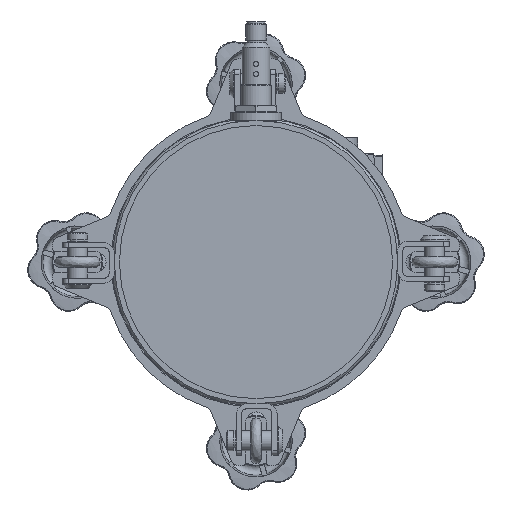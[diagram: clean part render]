
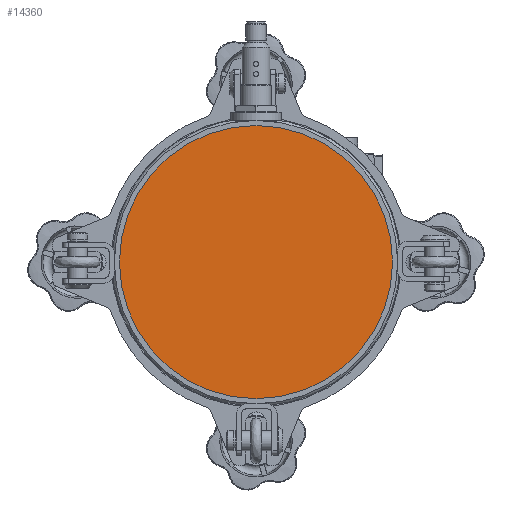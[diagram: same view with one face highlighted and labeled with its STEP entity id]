
A CAD part, front view. The second image highlights one B-rep face of the part: STEP entity #14360.
In plain terms, the highlighted planar face has unit normal (0, -1, 0).
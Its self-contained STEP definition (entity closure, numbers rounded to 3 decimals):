
#2250 = DIRECTION ( 'NONE',  ( 0., 1., 0. ) ) ;
#12770 = PLANE ( 'NONE',  #64571 ) ;
#14360 = ADVANCED_FACE ( 'NONE', ( #35748 ), #12770, .T. ) ;
#24559 = CARTESIAN_POINT ( 'NONE',  ( 0., 3., 0. ) ) ;
#29114 = EDGE_CURVE ( 'NONE', #50436, #50436, #69335, .T. ) ;
#30563 = DIRECTION ( 'NONE',  ( 0., 0., -1. ) ) ;
#31167 = EDGE_LOOP ( 'NONE', ( #32010 ) ) ;
#32010 = ORIENTED_EDGE ( 'NONE', *, *, #29114, .F. ) ;
#33700 = CARTESIAN_POINT ( 'NONE',  ( 0., 3., -81.15 ) ) ;
#35748 = FACE_OUTER_BOUND ( 'NONE', #31167, .T. ) ;
#42029 = AXIS2_PLACEMENT_3D ( 'NONE', #24559, #2250, #56248 ) ;
#50436 = VERTEX_POINT ( 'NONE', #33700 ) ;
#56248 = DIRECTION ( 'NONE',  ( 0., 0., -1. ) ) ;
#58055 = CARTESIAN_POINT ( 'NONE',  ( 0., 3., 0. ) ) ;
#63985 = DIRECTION ( 'NONE',  ( 0., -1., 0. ) ) ;
#64571 = AXIS2_PLACEMENT_3D ( 'NONE', #58055, #63985, #30563 ) ;
#69335 = CIRCLE ( 'NONE', #42029, 81.15 ) ;
